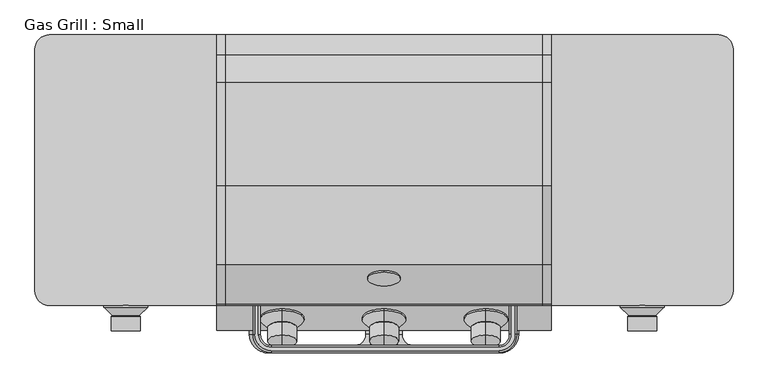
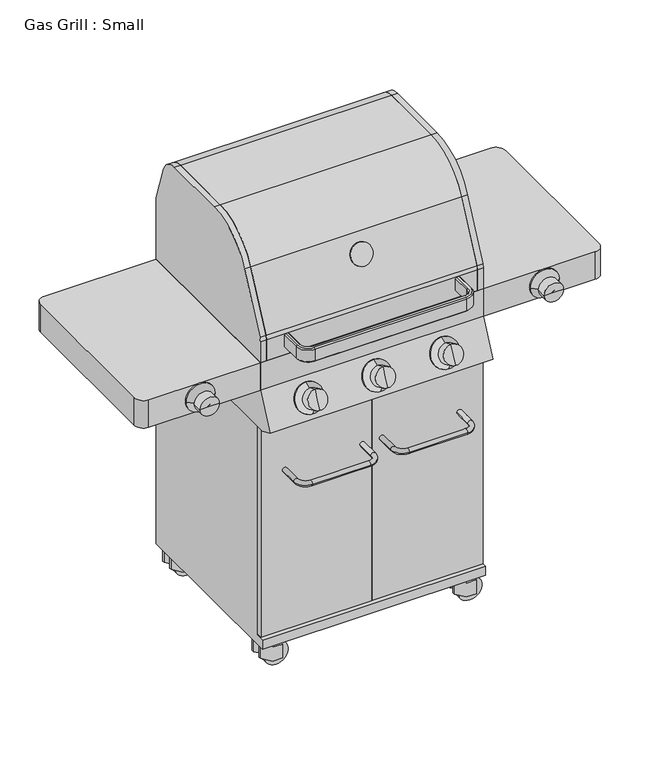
"""IFC4 building model written with IfcOpenShell, lengths in millimetres: proxy geometry, Gas Grill : Small."""

from ifc_helpers import new_model, si_unit, point, frame, frame_2d, origin, place, context, project, spatial, polyline, circle_curve, ellipse_curve, trimmed, segment, composite_curve, outline, extrude, source, transform, mapped, element, save
from ifc_brep_helpers import plane_surface, cylinder_surface, revolved_surface, advanced_brep


def gas_grill_small_96ad8991(model_context):
    return source(origin(), model_context, "Body", "SolidModel", [
        advanced_brep(
        [(0.0, -237.6710003, 774.7559865), (0.0, -269.8745119, 705.6953331), (0.0, -253.7727561, 740.2256598), (0.0, -240.5485275, 776.0977995), (0.0, -272.7520391, 707.0371461), (0.0, -259.5355585, 769.1870854), (0.0, -279.6627532, 726.024177), (0.0, -260.3034156, 771.2967555), (0.0, -281.7724233, 725.2563199), (0.0, -283.3236334, 782.0312593), (0.0, -304.7926411, 735.9908238), (0.0, -294.0581372, 759.0110415)],
        [
            (0, 1, circle_curve(frame((0.0, -253.7727561, 740.2256598), z_axis=(0.0, 0.9063077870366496, -0.42261826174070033), x_axis=(0.0, -0.42261826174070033, -0.9063077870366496)), 38.1)),
            (1, 2),
            (2, 0),
            (1, 0, circle_curve(frame((0.0, -253.7727561, 740.2256598), z_axis=(0.0, 0.9063077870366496, -0.42261826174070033), x_axis=(0.0, -0.42261826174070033, -0.9063077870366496)), 38.1)),
            (3, 4, circle_curve(frame((0.0, -256.6502833, 741.5674728), z_axis=(0.0, 0.9063077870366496, -0.42261826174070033), x_axis=(0.0, -0.42261826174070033, -0.9063077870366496)), 38.1)),
            (4, 1),
            (0, 3),
            (4, 3, circle_curve(frame((0.0, -256.6502833, 741.5674728), z_axis=(0.0, 0.9063077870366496, -0.42261826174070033), x_axis=(0.0, -0.42261826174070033, -0.9063077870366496)), 38.1)),
            (5, 6, circle_curve(frame((0.0, -269.5991558, 747.6056312), z_axis=(0.0, 0.9063077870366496, -0.42261826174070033), x_axis=(0.0, -0.42261826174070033, -0.9063077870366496)), 23.8125)),
            (6, 4),
            (3, 5),
            (6, 5, circle_curve(frame((0.0, -269.5991558, 747.6056312), z_axis=(0.0, 0.9063077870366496, -0.42261826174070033), x_axis=(0.0, -0.42261826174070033, -0.9063077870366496)), 23.8125)),
            (7, 8, circle_curve(frame((0.0, -271.0379194, 748.2765377), z_axis=(0.0, 0.9063077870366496, -0.42261826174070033), x_axis=(0.0, -0.42261826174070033, -0.9063077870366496)), 25.4)),
            (8, 6),
            (5, 7),
            (8, 7, circle_curve(frame((0.0, -271.0379194, 748.2765377), z_axis=(0.0, 0.9063077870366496, -0.42261826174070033), x_axis=(0.0, -0.42261826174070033, -0.9063077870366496)), 25.4)),
            (9, 10, circle_curve(frame((0.0, -294.0581372, 759.0110415), z_axis=(0.0, 0.9063077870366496, -0.42261826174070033), x_axis=(0.0, -0.42261826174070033, -0.9063077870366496)), 25.4)),
            (10, 8),
            (7, 9),
            (10, 9, circle_curve(frame((0.0, -294.0581372, 759.0110415), z_axis=(0.0, 0.9063077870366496, -0.42261826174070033), x_axis=(0.0, -0.42261826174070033, -0.9063077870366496)), 25.4)),
            (11, 10),
            (9, 11),
        ],
        [
            plane_surface(frame((0.0, -253.7727561, 740.2256598), z_axis=(0.0, 0.9063077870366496, -0.42261826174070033), x_axis=(0.0, -0.42261826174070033, -0.9063077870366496))),
            cylinder_surface(frame((0.0, -294.0581372, 759.0110415), z_axis=(0.0, -0.9063077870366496, 0.42261826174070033), x_axis=(0.0, -0.42261826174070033, -0.9063077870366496)), 38.1),
            revolved_surface(polyline([(0.0, -272.7520391, 707.0371461), (0.0, -279.6627532, 726.024177)]), (0.0, -294.0581372, 759.0110415), (0.0, -0.9063077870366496, 0.42261826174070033)),
            revolved_surface(polyline([(0.0, -279.6627532, 726.024177), (0.0, -281.7724233, 725.2563199)]), (0.0, -294.0581372, 759.0110415), (0.0, -0.9063077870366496, 0.42261826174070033)),
            cylinder_surface(frame((0.0, -294.0581372, 759.0110415), z_axis=(0.0, -0.9063077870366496, 0.42261826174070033), x_axis=(0.0, -0.42261826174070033, -0.9063077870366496)), 25.4),
            plane_surface(frame((0.0, -294.0581372, 759.0110415), z_axis=(0.0, -0.9063077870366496, 0.42261826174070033), x_axis=(0.0, -0.42261826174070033, -0.9063077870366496))),
        ],
        [
            (0, [[1, 2, 3]]),
            (0, [[4, -3, -2]]),
            (1, [[5, 6, -1, 7]]),
            (1, [[8, -7, -4, -6]]),
            (2, [[9, 10, -5, 11]]),
            (2, [[12, -11, -8, -10]]),
            (3, [[13, 14, -9, 15]]),
            (3, [[16, -15, -12, -14]]),
            (4, [[17, 18, -13, 19]]),
            (4, [[20, -19, -16, -18]]),
            (5, [[21, -17, 22]]),
            (5, [[-22, -20, -21]]),
        ],
    ),
        advanced_brep(
        [(-412.75, -231.775, 825.5), (-450.85, -231.775, 825.5), (-488.95, -231.775, 825.5), (-412.75, -234.95, 825.5), (-488.95, -234.95, 825.5), (-427.0375, -249.2375, 825.5), (-474.6625, -249.2375, 825.5), (-425.45, -250.825, 825.5), (-476.25, -250.825, 825.5), (-425.45, -276.225, 825.5), (-476.25, -276.225, 825.5), (-450.85, -276.225, 825.5)],
        [
            (0, 1),
            (1, 2),
            (2, 0, circle_curve(frame((-450.85, -231.775, 825.5), z_axis=(0.0, 1.0, 0.0), x_axis=(-1.0, 0.0, 0.0)), 38.1)),
            (0, 2, circle_curve(frame((-450.85, -231.775, 825.5), z_axis=(0.0, 1.0, 0.0), x_axis=(-1.0, 0.0, 0.0)), 38.1)),
            (3, 0),
            (2, 4),
            (4, 3, circle_curve(frame((-450.85, -234.95, 825.5), z_axis=(0.0, 1.0, 0.0), x_axis=(-1.0, 0.0, 0.0)), 38.1)),
            (3, 4, circle_curve(frame((-450.85, -234.95, 825.5), z_axis=(0.0, 1.0, 0.0), x_axis=(-1.0, 0.0, 0.0)), 38.1)),
            (5, 3),
            (4, 6),
            (6, 5, circle_curve(frame((-450.85, -249.2375, 825.5), z_axis=(0.0, 1.0, 0.0), x_axis=(-1.0, 0.0, 0.0)), 23.8125)),
            (5, 6, circle_curve(frame((-450.85, -249.2375, 825.5), z_axis=(0.0, 1.0, 0.0), x_axis=(-1.0, 0.0, 0.0)), 23.8125)),
            (7, 5),
            (6, 8),
            (8, 7, circle_curve(frame((-450.85, -250.825, 825.5), z_axis=(0.0, 1.0, 0.0), x_axis=(-1.0, 0.0, 0.0)), 25.4)),
            (7, 8, circle_curve(frame((-450.85, -250.825, 825.5), z_axis=(0.0, 1.0, 0.0), x_axis=(-1.0, 0.0, 0.0)), 25.4)),
            (9, 7),
            (8, 10),
            (10, 9, circle_curve(frame((-450.85, -276.225, 825.5), z_axis=(0.0, 1.0, 0.0), x_axis=(-1.0, 0.0, 0.0)), 25.4)),
            (9, 10, circle_curve(frame((-450.85, -276.225, 825.5), z_axis=(0.0, 1.0, 0.0), x_axis=(-1.0, 0.0, 0.0)), 25.4)),
            (11, 9),
            (10, 11),
        ],
        [
            plane_surface(frame((-450.85, -231.775, 825.5), z_axis=(0.0, 1.0, 0.0), x_axis=(-1.0, 0.0, 0.0))),
            cylinder_surface(frame((-450.85, -276.225, 825.5), z_axis=(0.0, -1.0, 0.0), x_axis=(-1.0, 0.0, 0.0)), 38.1),
            revolved_surface(polyline([(-488.95, -234.95, 825.5), (-474.6625, -249.2375, 825.5)]), (-450.85, -276.225, 825.5), (0.0, -1.0, 0.0)),
            revolved_surface(polyline([(-474.6625, -249.2375, 825.5), (-476.25, -250.825, 825.5)]), (-450.85, -276.225, 825.5), (0.0, -1.0, 0.0)),
            cylinder_surface(frame((-450.85, -276.225, 825.5), z_axis=(0.0, -1.0, 0.0), x_axis=(-1.0, 0.0, 0.0)), 25.4),
            plane_surface(frame((-450.85, -276.225, 825.5), z_axis=(0.0, -1.0, 0.0), x_axis=(-1.0, 0.0, 0.0))),
        ],
        [
            (0, [[1, 2, 3]]),
            (0, [[-2, -1, 4]]),
            (1, [[5, -3, 6, 7]]),
            (1, [[-6, -4, -5, 8]]),
            (2, [[9, -7, 10, 11]]),
            (2, [[-10, -8, -9, 12]]),
            (3, [[13, -11, 14, 15]]),
            (3, [[-14, -12, -13, 16]]),
            (4, [[17, -15, 18, 19]]),
            (4, [[-18, -16, -17, 20]]),
            (5, [[21, -19, 22]]),
            (5, [[-22, -20, -21]]),
        ],
    ),
        advanced_brep(
        [(-177.8, -237.6710003, 774.7559865), (-177.8, -269.8745119, 705.6953331), (-177.8, -253.7727561, 740.2256598), (-177.8, -240.5485275, 776.0977995), (-177.8, -272.7520391, 707.0371461), (-177.8, -259.5355585, 769.1870854), (-177.8, -279.6627532, 726.024177), (-177.8, -260.3034156, 771.2967555), (-177.8, -281.7724233, 725.2563199), (-177.8, -283.3236334, 782.0312593), (-177.8, -304.7926411, 735.9908238), (-177.8, -294.0581372, 759.0110415)],
        [
            (0, 1, circle_curve(frame((-177.8, -253.7727561, 740.2256598), z_axis=(0.0, 0.9063077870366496, -0.42261826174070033), x_axis=(0.0, -0.42261826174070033, -0.9063077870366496)), 38.1)),
            (1, 2),
            (2, 0),
            (1, 0, circle_curve(frame((-177.8, -253.7727561, 740.2256598), z_axis=(0.0, 0.9063077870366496, -0.42261826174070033), x_axis=(0.0, -0.42261826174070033, -0.9063077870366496)), 38.1)),
            (3, 4, circle_curve(frame((-177.8, -256.6502833, 741.5674728), z_axis=(0.0, 0.9063077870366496, -0.42261826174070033), x_axis=(0.0, -0.42261826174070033, -0.9063077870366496)), 38.1)),
            (4, 1),
            (0, 3),
            (4, 3, circle_curve(frame((-177.8, -256.6502833, 741.5674728), z_axis=(0.0, 0.9063077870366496, -0.42261826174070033), x_axis=(0.0, -0.42261826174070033, -0.9063077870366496)), 38.1)),
            (5, 6, circle_curve(frame((-177.8, -269.5991558, 747.6056312), z_axis=(0.0, 0.9063077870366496, -0.42261826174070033), x_axis=(0.0, -0.42261826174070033, -0.9063077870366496)), 23.8125)),
            (6, 4),
            (3, 5),
            (6, 5, circle_curve(frame((-177.8, -269.5991558, 747.6056312), z_axis=(0.0, 0.9063077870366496, -0.42261826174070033), x_axis=(0.0, -0.42261826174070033, -0.9063077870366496)), 23.8125)),
            (7, 8, circle_curve(frame((-177.8, -271.0379194, 748.2765377), z_axis=(0.0, 0.9063077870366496, -0.42261826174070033), x_axis=(0.0, -0.42261826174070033, -0.9063077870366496)), 25.4)),
            (8, 6),
            (5, 7),
            (8, 7, circle_curve(frame((-177.8, -271.0379194, 748.2765377), z_axis=(0.0, 0.9063077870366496, -0.42261826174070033), x_axis=(0.0, -0.42261826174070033, -0.9063077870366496)), 25.4)),
            (9, 10, circle_curve(frame((-177.8, -294.0581372, 759.0110415), z_axis=(0.0, 0.9063077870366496, -0.42261826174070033), x_axis=(0.0, -0.42261826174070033, -0.9063077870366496)), 25.4)),
            (10, 8),
            (7, 9),
            (10, 9, circle_curve(frame((-177.8, -294.0581372, 759.0110415), z_axis=(0.0, 0.9063077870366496, -0.42261826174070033), x_axis=(0.0, -0.42261826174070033, -0.9063077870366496)), 25.4)),
            (11, 10),
            (9, 11),
        ],
        [
            plane_surface(frame((-177.8, -253.7727561, 740.2256598), z_axis=(0.0, 0.9063077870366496, -0.42261826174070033), x_axis=(0.0, -0.42261826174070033, -0.9063077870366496))),
            cylinder_surface(frame((-177.8, -294.0581372, 759.0110415), z_axis=(0.0, -0.9063077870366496, 0.42261826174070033), x_axis=(0.0, -0.42261826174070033, -0.9063077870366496)), 38.1),
            revolved_surface(polyline([(-177.8, -272.7520391, 707.0371461), (-177.8, -279.6627532, 726.024177)]), (-177.8, -294.0581372, 759.0110415), (0.0, -0.9063077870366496, 0.42261826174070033)),
            revolved_surface(polyline([(-177.8, -279.6627532, 726.024177), (-177.8, -281.7724233, 725.2563199)]), (-177.8, -294.0581372, 759.0110415), (0.0, -0.9063077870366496, 0.42261826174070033)),
            cylinder_surface(frame((-177.8, -294.0581372, 759.0110415), z_axis=(0.0, -0.9063077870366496, 0.42261826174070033), x_axis=(0.0, -0.42261826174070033, -0.9063077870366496)), 25.4),
            plane_surface(frame((-177.8, -294.0581372, 759.0110415), z_axis=(0.0, -0.9063077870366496, 0.42261826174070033), x_axis=(0.0, -0.42261826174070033, -0.9063077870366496))),
        ],
        [
            (0, [[1, 2, 3]]),
            (0, [[4, -3, -2]]),
            (1, [[5, 6, -1, 7]]),
            (1, [[8, -7, -4, -6]]),
            (2, [[9, 10, -5, 11]]),
            (2, [[12, -11, -8, -10]]),
            (3, [[13, 14, -9, 15]]),
            (3, [[16, -15, -12, -14]]),
            (4, [[17, 18, -13, 19]]),
            (4, [[20, -19, -16, -18]]),
            (5, [[21, -17, 22]]),
            (5, [[-22, -20, -21]]),
        ],
    ),
        advanced_brep(
        [(412.75, -231.775, 825.5), (488.95, -231.775, 825.5), (450.85, -231.775, 825.5), (412.75, -234.95, 825.5), (488.95, -234.95, 825.5), (427.0375, -249.2375, 825.5), (474.6625, -249.2375, 825.5), (425.45, -250.825, 825.5), (476.25, -250.825, 825.5), (425.45, -276.225, 825.5), (476.25, -276.225, 825.5), (450.85, -276.225, 825.5)],
        [
            (0, 1, circle_curve(frame((450.85, -231.775, 825.5), z_axis=(0.0, 1.0, 0.0), x_axis=(1.0, 0.0, 0.0)), 38.1)),
            (1, 2),
            (2, 0),
            (1, 0, circle_curve(frame((450.85, -231.775, 825.5), z_axis=(0.0, 1.0, 0.0), x_axis=(1.0, 0.0, 0.0)), 38.1)),
            (3, 4, circle_curve(frame((450.85, -234.95, 825.5), z_axis=(0.0, 1.0, 0.0), x_axis=(1.0, 0.0, 0.0)), 38.1)),
            (4, 1),
            (0, 3),
            (4, 3, circle_curve(frame((450.85, -234.95, 825.5), z_axis=(0.0, 1.0, 0.0), x_axis=(1.0, 0.0, 0.0)), 38.1)),
            (5, 6, circle_curve(frame((450.85, -249.2375, 825.5), z_axis=(0.0, 1.0, 0.0), x_axis=(1.0, 0.0, 0.0)), 23.8125)),
            (6, 4),
            (3, 5),
            (6, 5, circle_curve(frame((450.85, -249.2375, 825.5), z_axis=(0.0, 1.0, 0.0), x_axis=(1.0, 0.0, 0.0)), 23.8125)),
            (7, 8, circle_curve(frame((450.85, -250.825, 825.5), z_axis=(0.0, 1.0, 0.0), x_axis=(1.0, 0.0, 0.0)), 25.4)),
            (8, 6),
            (5, 7),
            (8, 7, circle_curve(frame((450.85, -250.825, 825.5), z_axis=(0.0, 1.0, 0.0), x_axis=(1.0, 0.0, 0.0)), 25.4)),
            (9, 10, circle_curve(frame((450.85, -276.225, 825.5), z_axis=(0.0, 1.0, 0.0), x_axis=(1.0, 0.0, 0.0)), 25.4)),
            (10, 8),
            (7, 9),
            (10, 9, circle_curve(frame((450.85, -276.225, 825.5), z_axis=(0.0, 1.0, 0.0), x_axis=(1.0, 0.0, 0.0)), 25.4)),
            (11, 10),
            (9, 11),
        ],
        [
            plane_surface(frame((450.85, -231.775, 825.5), z_axis=(0.0, 1.0, 0.0), x_axis=(1.0, 0.0, 0.0))),
            cylinder_surface(frame((450.85, -276.225, 825.5), z_axis=(0.0, -1.0, 0.0), x_axis=(1.0, 0.0, 0.0)), 38.1),
            revolved_surface(polyline([(488.95, -234.95, 825.5), (474.6625, -249.2375, 825.5)]), (450.85, -276.225, 825.5), (0.0, -1.0, 0.0)),
            revolved_surface(polyline([(474.6625, -249.2375, 825.5), (476.25, -250.825, 825.5)]), (450.85, -276.225, 825.5), (0.0, -1.0, 0.0)),
            cylinder_surface(frame((450.85, -276.225, 825.5), z_axis=(0.0, -1.0, 0.0), x_axis=(1.0, 0.0, 0.0)), 25.4),
            plane_surface(frame((450.85, -276.225, 825.5), z_axis=(0.0, -1.0, 0.0), x_axis=(1.0, 0.0, 0.0))),
        ],
        [
            (0, [[1, 2, 3]]),
            (0, [[4, -3, -2]]),
            (1, [[5, 6, -1, 7]]),
            (1, [[8, -7, -4, -6]]),
            (2, [[9, 10, -5, 11]]),
            (2, [[12, -11, -8, -10]]),
            (3, [[13, 14, -9, 15]]),
            (3, [[16, -15, -12, -14]]),
            (4, [[17, 18, -13, 19]]),
            (4, [[20, -19, -16, -18]]),
            (5, [[21, -17, 22]]),
            (5, [[-22, -20, -21]]),
        ],
    ),
        advanced_brep(
        [(177.8, -237.6710003, 774.7559865), (177.8, -269.8745119, 705.6953331), (177.8, -253.7727561, 740.2256598), (177.8, -240.5485275, 776.0977995), (177.8, -272.7520391, 707.0371461), (177.8, -259.5355585, 769.1870854), (177.8, -279.6627532, 726.024177), (177.8, -260.3034156, 771.2967555), (177.8, -281.7724233, 725.2563199), (177.8, -283.3236334, 782.0312593), (177.8, -304.7926411, 735.9908238), (177.8, -294.0581372, 759.0110415)],
        [
            (0, 1, circle_curve(frame((177.8, -253.7727561, 740.2256598), z_axis=(0.0, 0.9063077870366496, -0.42261826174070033), x_axis=(0.0, -0.42261826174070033, -0.9063077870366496)), 38.1)),
            (1, 2),
            (2, 0),
            (1, 0, circle_curve(frame((177.8, -253.7727561, 740.2256598), z_axis=(0.0, 0.9063077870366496, -0.42261826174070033), x_axis=(0.0, -0.42261826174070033, -0.9063077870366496)), 38.1)),
            (3, 4, circle_curve(frame((177.8, -256.6502833, 741.5674728), z_axis=(0.0, 0.9063077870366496, -0.42261826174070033), x_axis=(0.0, -0.42261826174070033, -0.9063077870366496)), 38.1)),
            (4, 1),
            (0, 3),
            (4, 3, circle_curve(frame((177.8, -256.6502833, 741.5674728), z_axis=(0.0, 0.9063077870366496, -0.42261826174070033), x_axis=(0.0, -0.42261826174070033, -0.9063077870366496)), 38.1)),
            (5, 6, circle_curve(frame((177.8, -269.5991558, 747.6056312), z_axis=(0.0, 0.9063077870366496, -0.42261826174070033), x_axis=(0.0, -0.42261826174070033, -0.9063077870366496)), 23.8125)),
            (6, 4),
            (3, 5),
            (6, 5, circle_curve(frame((177.8, -269.5991558, 747.6056312), z_axis=(0.0, 0.9063077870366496, -0.42261826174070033), x_axis=(0.0, -0.42261826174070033, -0.9063077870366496)), 23.8125)),
            (7, 8, circle_curve(frame((177.8, -271.0379194, 748.2765377), z_axis=(0.0, 0.9063077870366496, -0.42261826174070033), x_axis=(0.0, -0.42261826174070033, -0.9063077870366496)), 25.4)),
            (8, 6),
            (5, 7),
            (8, 7, circle_curve(frame((177.8, -271.0379194, 748.2765377), z_axis=(0.0, 0.9063077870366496, -0.42261826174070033), x_axis=(0.0, -0.42261826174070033, -0.9063077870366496)), 25.4)),
            (9, 10, circle_curve(frame((177.8, -294.0581372, 759.0110415), z_axis=(0.0, 0.9063077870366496, -0.42261826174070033), x_axis=(0.0, -0.42261826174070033, -0.9063077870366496)), 25.4)),
            (10, 8),
            (7, 9),
            (10, 9, circle_curve(frame((177.8, -294.0581372, 759.0110415), z_axis=(0.0, 0.9063077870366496, -0.42261826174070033), x_axis=(0.0, -0.42261826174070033, -0.9063077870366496)), 25.4)),
            (11, 10),
            (9, 11),
        ],
        [
            plane_surface(frame((177.8, -253.7727561, 740.2256598), z_axis=(0.0, 0.9063077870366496, -0.42261826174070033), x_axis=(0.0, -0.42261826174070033, -0.9063077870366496))),
            cylinder_surface(frame((177.8, -294.0581372, 759.0110415), z_axis=(0.0, -0.9063077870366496, 0.42261826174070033), x_axis=(0.0, -0.42261826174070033, -0.9063077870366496)), 38.1),
            revolved_surface(polyline([(177.8, -272.7520391, 707.0371461), (177.8, -279.6627532, 726.024177)]), (177.8, -294.0581372, 759.0110415), (0.0, -0.9063077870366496, 0.42261826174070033)),
            revolved_surface(polyline([(177.8, -279.6627532, 726.024177), (177.8, -281.7724233, 725.2563199)]), (177.8, -294.0581372, 759.0110415), (0.0, -0.9063077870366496, 0.42261826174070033)),
            cylinder_surface(frame((177.8, -294.0581372, 759.0110415), z_axis=(0.0, -0.9063077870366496, 0.42261826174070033), x_axis=(0.0, -0.42261826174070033, -0.9063077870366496)), 25.4),
            plane_surface(frame((177.8, -294.0581372, 759.0110415), z_axis=(0.0, -0.9063077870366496, 0.42261826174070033), x_axis=(0.0, -0.42261826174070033, -0.9063077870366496))),
        ],
        [
            (0, [[1, 2, 3]]),
            (0, [[4, -3, -2]]),
            (1, [[5, 6, -1, 7]]),
            (1, [[8, -7, -4, -6]]),
            (2, [[9, 10, -5, 11]]),
            (2, [[12, -11, -8, -10]]),
            (3, [[13, 14, -9, 15]]),
            (3, [[16, -15, -12, -14]]),
            (4, [[17, 18, -13, 19]]),
            (4, [[20, -19, -16, -18]]),
            (5, [[21, -17, 22]]),
            (5, [[-22, -20, -21]]),
        ],
    ),
        extrude(outline(polyline([(37.380871, 221.7704136), (19.05, 253.5204136), (19.05, 278.9204136), (57.15, 278.9204136), (57.15, 252.7781091), (76.2, 247.673677), (76.2, 221.7704136), (37.380871, 221.7704136)])), frame((0.0, -222.25, 0.0), z_axis=(0.0, 1.0, 0.0), x_axis=(0.0, 0.0, 1.0)), (0.0, 0.0, 1.0), 6.35),
        extrude(outline(composite_curve([segment(trimmed(circle_curve(frame_2d((31.75, 267.9717065)), 31.75), [point((0.0, 267.9717065))], [point((63.5, 267.9717065))], False, "CARTESIAN"), True, "CONTINUOUS"), segment(trimmed(circle_curve(frame_2d((31.75, 267.9717065)), 31.75), [point((63.5, 267.9717065))], [point((0.0, 267.9717065))], False, "CARTESIAN"), True, "CONTINUOUS")], self_intersect=False)), frame((0.0, -212.852, 0.0), z_axis=(0.0, 1.0, 0.0), x_axis=(0.0, 0.0, 1.0)), (0.0, 0.0, 1.0), 19.304),
        extrude(outline(polyline([(37.380871, 221.7704136), (19.05, 253.5204136), (19.05, 278.9204136), (57.15, 278.9204136), (57.15, 252.7781091), (76.2, 247.673677), (76.2, 221.7704136), (37.380871, 221.7704136)])), frame((0.0, -190.5, 0.0), z_axis=(0.0, 1.0, 0.0), x_axis=(0.0, 0.0, 1.0)), (0.0, 0.0, 1.0), 6.35),
        advanced_brep(
        [(-219.202, -231.775, 920.75), (-215.9, -231.775, 917.448), (-215.9, -231.775, 885.952), (-219.202, -231.775, 882.65), (-225.298, -231.775, 882.65), (-228.6, -231.775, 885.952), (-228.6, -231.775, 917.448), (-225.298, -231.775, 920.75), (222.377, -231.775, 920.75), (228.473, -231.775, 920.75), (231.775, -231.775, 917.448), (231.775, -231.775, 885.952), (228.473, -231.775, 882.65), (222.377, -231.775, 882.65), (219.075, -231.775, 885.952), (219.075, -231.775, 917.448), (-219.202, -282.575, 920.75), (-215.9, -282.575, 917.448), (-215.9, -282.575, 885.952), (-219.202, -282.575, 882.65), (-196.85, -304.927, 882.65), (200.025, -304.927, 882.65), (222.377, -282.575, 882.65), (228.473, -282.575, 882.65), (200.025, -311.023, 882.65), (-196.85, -311.023, 882.65), (-225.298, -282.575, 882.65), (-228.6, -282.575, 885.952), (-228.6, -282.575, 917.448), (-225.298, -282.575, 920.75), (-196.85, -311.023, 920.75), (200.025, -311.023, 920.75), (228.473, -282.575, 920.75), (222.377, -282.575, 920.75), (200.025, -304.927, 920.75), (-196.85, -304.927, 920.75), (-196.85, -301.625, 917.448), (-196.85, -301.625, 885.952), (-196.85, -314.325, 885.952), (-196.85, -314.325, 917.448), (200.025, -301.625, 917.448), (200.025, -301.625, 885.952), (200.025, -314.325, 885.952), (200.025, -314.325, 917.448), (219.075, -282.575, 917.448), (219.075, -282.575, 885.952), (231.775, -282.575, 885.952), (231.775, -282.575, 917.448)],
        [
            (0, 1),
            (1, 2),
            (2, 3),
            (3, 4),
            (4, 5),
            (5, 6),
            (6, 7),
            (7, 0),
            (8, 9),
            (9, 10),
            (10, 11),
            (11, 12),
            (12, 13),
            (13, 14),
            (14, 15),
            (15, 8),
            (0, 16),
            (16, 17),
            (17, 1),
            (17, 18),
            (18, 2),
            (18, 19),
            (19, 3),
            (19, 20, circle_curve(frame((-196.85, -282.575, 882.65), z_axis=(0.0, 0.0, 1.0), x_axis=(-1.0, 0.0, 0.0)), 22.352)),
            (20, 21),
            (21, 22, circle_curve(frame((200.025, -282.575, 882.65), z_axis=(0.0, 0.0, 1.0), x_axis=(0.0, -1.0, 0.0)), 22.352)),
            (22, 13),
            (12, 23),
            (23, 24, circle_curve(frame((200.025, -282.575, 882.65), z_axis=(0.0, 0.0, -1.0), x_axis=(0.0, -1.0, 0.0)), 28.448)),
            (24, 25),
            (25, 26, circle_curve(frame((-196.85, -282.575, 882.65), z_axis=(0.0, 0.0, -1.0), x_axis=(-1.0, 0.0, 0.0)), 28.448)),
            (26, 4),
            (26, 27),
            (27, 5),
            (27, 28),
            (28, 6),
            (28, 29),
            (29, 7),
            (29, 30, circle_curve(frame((-196.85, -282.575, 920.75), z_axis=(0.0, 0.0, 1.0), x_axis=(-1.0, 0.0, 0.0)), 28.448)),
            (30, 31),
            (31, 32, circle_curve(frame((200.025, -282.575, 920.75), z_axis=(0.0, 0.0, 1.0), x_axis=(0.0, -1.0, 0.0)), 28.448)),
            (32, 9),
            (8, 33),
            (33, 34, circle_curve(frame((200.025, -282.575, 920.75), z_axis=(0.0, 0.0, -1.0), x_axis=(0.0, -1.0, 0.0)), 22.352)),
            (34, 35),
            (35, 16, circle_curve(frame((-196.85, -282.575, 920.75), z_axis=(0.0, 0.0, -1.0), x_axis=(-1.0, 0.0, 0.0)), 22.352)),
            (36, 17, circle_curve(frame((-196.85, -282.575, 917.448), z_axis=(0.0, 0.0, -1.0), x_axis=(-1.0, 0.0, 0.0)), 19.05)),
            (35, 36),
            (37, 18, circle_curve(frame((-196.85, -282.575, 885.952), z_axis=(0.0, 0.0, -1.0), x_axis=(-1.0, 0.0, 0.0)), 19.05)),
            (36, 37),
            (37, 20),
            (38, 27, circle_curve(frame((-196.85, -282.575, 885.952), z_axis=(0.0, 0.0, -1.0), x_axis=(-1.0, 0.0, 0.0)), 31.75)),
            (25, 38),
            (39, 28, circle_curve(frame((-196.85, -282.575, 917.448), z_axis=(0.0, 0.0, -1.0), x_axis=(-1.0, 0.0, 0.0)), 31.75)),
            (38, 39),
            (39, 30),
            (34, 40),
            (40, 36),
            (40, 41),
            (41, 37),
            (41, 21),
            (24, 42),
            (42, 38),
            (42, 43),
            (43, 39),
            (43, 31),
            (44, 40, circle_curve(frame((200.025, -282.575, 917.448), z_axis=(0.0, 0.0, -1.0), x_axis=(0.0, -1.0, 0.0)), 19.05)),
            (33, 44),
            (45, 41, circle_curve(frame((200.025, -282.575, 885.952), z_axis=(0.0, 0.0, -1.0), x_axis=(0.0, -1.0, 0.0)), 19.05)),
            (44, 45),
            (45, 22),
            (46, 42, circle_curve(frame((200.025, -282.575, 885.952), z_axis=(0.0, 0.0, -1.0), x_axis=(0.0, -1.0, 0.0)), 31.75)),
            (23, 46),
            (47, 43, circle_curve(frame((200.025, -282.575, 917.448), z_axis=(0.0, 0.0, -1.0), x_axis=(0.0, -1.0, 0.0)), 31.75)),
            (46, 47),
            (47, 32),
            (15, 44),
            (14, 45),
            (11, 46),
            (10, 47),
        ],
        [
            plane_surface(frame((-222.25, -231.775, 901.7), z_axis=(0.0, 1.0, 0.0), x_axis=(0.0, 0.0, 1.0))),
            plane_surface(frame((225.425, -231.775, 901.7), z_axis=(0.0, 1.0, 0.0), x_axis=(0.0, 0.0, 1.0))),
            plane_surface(frame((-219.202, -231.775, 920.75), z_axis=(0.7071067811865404, 0.0, 0.7071067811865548), x_axis=(0.0, -1.0, 0.0))),
            plane_surface(frame((-215.9, -231.775, 917.448), z_axis=(1.0, 0.0, 0.0), x_axis=(0.0, -1.0, 0.0))),
            plane_surface(frame((-215.9, -231.775, 885.952), z_axis=(0.7071067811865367, 0.0, -0.7071067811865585), x_axis=(0.0, -1.0, 0.0))),
            plane_surface(frame((-219.202, -231.775, 882.65), z_axis=(0.0, 0.0, -1.0), x_axis=(0.0, -1.0, 0.0))),
            plane_surface(frame((-225.298, -231.775, 882.65), z_axis=(-0.7071067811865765, 0.0, -0.7071067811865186), x_axis=(0.0, -1.0, 0.0))),
            plane_surface(frame((-228.6, -231.775, 885.952), z_axis=(-1.0, 0.0, 0.0), x_axis=(0.0, -1.0, 0.0))),
            plane_surface(frame((-228.6, -231.775, 917.448), z_axis=(-0.7071067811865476, 0.0, 0.7071067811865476), x_axis=(0.0, -1.0, 0.0))),
            plane_surface(frame((-225.298, -231.775, 920.75), z_axis=(0.0, 0.0, 1.0), x_axis=(0.0, -1.0, 0.0))),
            revolved_surface(polyline([(-219.202, -282.575, 920.75), (-215.9, -282.575, 917.448)]), (-196.85, -282.575, 901.7), (0.0, 0.0, 1.0)),
            revolved_surface(polyline([(-215.9, -282.575, 917.448), (-215.9, -282.575, 885.952)]), (-196.85, -282.575, 901.7), (0.0, 0.0, 1.0)),
            revolved_surface(polyline([(-215.9, -282.575, 885.952), (-219.202, -282.575, 882.65)]), (-196.85, -282.575, 901.7), (0.0, 0.0, 1.0)),
            revolved_surface(polyline([(-225.298, -282.575, 882.65), (-228.6, -282.575, 885.952)]), (-196.85, -282.575, 901.7), (0.0, 0.0, 1.0)),
            cylinder_surface(frame((-196.85, -282.575, 901.7), z_axis=(0.0, 0.0, 1.0), x_axis=(-1.0, 0.0, 0.0)), 31.75),
            revolved_surface(polyline([(-228.6, -282.575, 917.448), (-225.298, -282.575, 920.75)]), (-196.85, -282.575, 901.7), (0.0, 0.0, 1.0)),
            plane_surface(frame((-196.85, -304.927, 920.75), z_axis=(0.0, 0.7071067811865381, 0.707106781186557), x_axis=(1.0, 0.0, 0.0))),
            plane_surface(frame((-196.85, -301.625, 917.448), z_axis=(0.0, 1.0, 0.0), x_axis=(1.0, 0.0, 0.0))),
            plane_surface(frame((-196.85, -301.625, 885.952), z_axis=(0.0, 0.7071067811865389, -0.7071067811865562), x_axis=(1.0, 0.0, 0.0))),
            plane_surface(frame((-196.85, -311.023, 882.65), z_axis=(0.0, -0.7071067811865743, -0.7071067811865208), x_axis=(1.0, 0.0, 0.0))),
            plane_surface(frame((-196.85, -314.325, 885.952), z_axis=(0.0, -1.0, 0.0), x_axis=(1.0, 0.0, 0.0))),
            plane_surface(frame((-196.85, -314.325, 917.448), z_axis=(0.0, -0.7071067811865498, 0.7071067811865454), x_axis=(1.0, 0.0, 0.0))),
            revolved_surface(polyline([(200.025, -304.927, 920.75), (200.025, -301.625, 917.448)]), (200.025, -282.575, 901.7), (0.0, 0.0, 1.0)),
            revolved_surface(polyline([(200.025, -301.625, 917.448), (200.025, -301.625, 885.952)]), (200.025, -282.575, 901.7), (0.0, 0.0, 1.0)),
            revolved_surface(polyline([(200.025, -301.625, 885.952), (200.025, -304.927, 882.65)]), (200.025, -282.575, 901.7), (0.0, 0.0, 1.0)),
            revolved_surface(polyline([(200.025, -311.023, 882.65), (200.025, -314.325, 885.952)]), (200.025, -282.575, 901.7), (0.0, 0.0, 1.0)),
            cylinder_surface(frame((200.025, -282.575, 901.7), z_axis=(0.0, 0.0, 1.0), x_axis=(0.0, -1.0, 0.0)), 31.75),
            revolved_surface(polyline([(200.025, -314.325, 917.448), (200.025, -311.023, 920.75)]), (200.025, -282.575, 901.7), (0.0, 0.0, 1.0)),
            plane_surface(frame((222.377, -282.575, 920.75), z_axis=(-0.7071067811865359, 0.0, 0.7071067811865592), x_axis=(0.0, 1.0, 0.0))),
            plane_surface(frame((219.075, -282.575, 917.448), z_axis=(-1.0, 0.0, 0.0), x_axis=(0.0, 1.0, 0.0))),
            plane_surface(frame((219.075, -282.575, 885.952), z_axis=(-0.7071067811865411, 0.0, -0.707106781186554), x_axis=(0.0, 1.0, 0.0))),
            plane_surface(frame((228.473, -282.575, 882.65), z_axis=(0.7071067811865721, 0.0, -0.707106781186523), x_axis=(0.0, 1.0, 0.0))),
            plane_surface(frame((231.775, -282.575, 885.952), z_axis=(1.0, 0.0, 0.0), x_axis=(0.0, 1.0, 0.0))),
            plane_surface(frame((231.775, -282.575, 917.448), z_axis=(0.707106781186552, 0.0, 0.7071067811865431), x_axis=(0.0, 1.0, 0.0))),
        ],
        [
            (0, [[1, 2, 3, 4, 5, 6, 7, 8]]),
            (1, [[9, 10, 11, 12, 13, 14, 15, 16]]),
            (2, [[-1, 17, 18, 19]]),
            (3, [[-2, -19, 20, 21]]),
            (4, [[-3, -21, 22, 23]]),
            (5, [[-4, -23, 24, 25, 26, 27, -13, 28, 29, 30, 31, 32]]),
            (6, [[-5, -32, 33, 34]]),
            (7, [[-6, -34, 35, 36]]),
            (8, [[-7, -36, 37, 38]]),
            (9, [[-8, -38, 39, 40, 41, 42, -9, 43, 44, 45, 46, -17]]),
            (10, [[47, -18, -46, 48]]),
            (11, [[49, -20, -47, 50]]),
            (12, [[-24, -22, -49, 51]]),
            (13, [[52, -33, -31, 53]]),
            (14, [[54, -35, -52, 55]]),
            (15, [[-39, -37, -54, 56]]),
            (16, [[-48, -45, 57, 58]]),
            (17, [[-50, -58, 59, 60]]),
            (18, [[-51, -60, 61, -25]]),
            (19, [[-53, -30, 62, 63]]),
            (20, [[-55, -63, 64, 65]]),
            (21, [[-56, -65, 66, -40]]),
            (22, [[67, -57, -44, 68]]),
            (23, [[69, -59, -67, 70]]),
            (24, [[-26, -61, -69, 71]]),
            (25, [[72, -62, -29, 73]]),
            (26, [[74, -64, -72, 75]]),
            (27, [[-41, -66, -74, 76]]),
            (28, [[-68, -43, -16, 77]]),
            (29, [[-70, -77, -15, 78]]),
            (30, [[-71, -78, -14, -27]]),
            (31, [[-73, -28, -12, 79]]),
            (32, [[-75, -79, -11, 80]]),
            (33, [[-76, -80, -10, -42]]),
        ],
    ),
        extrude(outline(polyline([(37.380871, 221.7704136), (19.05, 253.5204136), (19.05, 278.9204136), (57.15, 278.9204136), (57.15, 252.7781091), (76.2, 247.673677), (76.2, 221.7704136), (37.380871, 221.7704136)])), frame((0.0, 215.9, 0.0), z_axis=(0.0, 1.0, 0.0), x_axis=(0.0, 0.0, 1.0)), (0.0, 0.0, 1.0), 6.35),
        extrude(outline(composite_curve([segment(trimmed(circle_curve(frame_2d((31.75, 267.9717065)), 31.75), [point((0.0, 267.9717065))], [point((63.5, 267.9717065))], False, "CARTESIAN"), True, "CONTINUOUS"), segment(trimmed(circle_curve(frame_2d((31.75, 267.9717065)), 31.75), [point((63.5, 267.9717065))], [point((0.0, 267.9717065))], False, "CARTESIAN"), True, "CONTINUOUS")], self_intersect=False)), frame((0.0, 193.548, 0.0), z_axis=(0.0, 1.0, 0.0), x_axis=(0.0, 0.0, 1.0)), (0.0, 0.0, 1.0), 19.304),
        extrude(outline(polyline([(37.380871, 221.7704136), (19.05, 253.5204136), (19.05, 278.9204136), (57.15, 278.9204136), (57.15, 252.7781091), (76.2, 247.673677), (76.2, 221.7704136), (37.380871, 221.7704136)])), frame((0.0, 184.15, 0.0), z_axis=(0.0, 1.0, 0.0), x_axis=(0.0, 0.0, 1.0)), (0.0, 0.0, 1.0), 6.35),
        extrude(outline(polyline([(37.380871, -286.2295864), (19.05, -254.4795864), (19.05, -229.0795864), (57.15, -229.0795864), (57.15, -255.2218909), (76.2, -260.326323), (76.2, -286.2295864), (37.380871, -286.2295864)])), frame((0.0, -222.25, 0.0), z_axis=(0.0, 1.0, 0.0), x_axis=(0.0, 0.0, 1.0)), (0.0, 0.0, 1.0), 6.35),
        extrude(outline(composite_curve([segment(trimmed(circle_curve(frame_2d((31.75, -240.0282935)), 31.75), [point((0.0, -240.0282935))], [point((63.5, -240.0282935))], False, "CARTESIAN"), True, "CONTINUOUS"), segment(trimmed(circle_curve(frame_2d((31.75, -240.0282935)), 31.75), [point((63.5, -240.0282935))], [point((0.0, -240.0282935))], False, "CARTESIAN"), True, "CONTINUOUS")], self_intersect=False)), frame((0.0, -212.852, 0.0), z_axis=(0.0, 1.0, 0.0), x_axis=(0.0, 0.0, 1.0)), (0.0, 0.0, 1.0), 19.304),
        extrude(outline(polyline([(37.380871, -286.2295864), (19.05, -254.4795864), (19.05, -229.0795864), (57.15, -229.0795864), (57.15, -255.2218909), (76.2, -260.326323), (76.2, -286.2295864), (37.380871, -286.2295864)])), frame((0.0, -190.5, 0.0), z_axis=(0.0, 1.0, 0.0), x_axis=(0.0, 0.0, 1.0)), (0.0, 0.0, 1.0), 6.35),
        extrude(outline(polyline([(37.380871, -286.2295864), (19.05, -254.4795864), (19.05, -229.0795864), (57.15, -229.0795864), (57.15, -255.2218909), (76.2, -260.326323), (76.2, -286.2295864), (37.380871, -286.2295864)])), frame((0.0, 215.9, 0.0), z_axis=(0.0, 1.0, 0.0), x_axis=(0.0, 0.0, 1.0)), (0.0, 0.0, 1.0), 6.35),
        extrude(outline(composite_curve([segment(trimmed(circle_curve(frame_2d((31.75, -240.0282935)), 31.75), [point((0.0, -240.0282935))], [point((63.5, -240.0282935))], False, "CARTESIAN"), True, "CONTINUOUS"), segment(trimmed(circle_curve(frame_2d((31.75, -240.0282935)), 31.75), [point((63.5, -240.0282935))], [point((0.0, -240.0282935))], False, "CARTESIAN"), True, "CONTINUOUS")], self_intersect=False)), frame((0.0, 193.548, 0.0), z_axis=(0.0, 1.0, 0.0), x_axis=(0.0, 0.0, 1.0)), (0.0, 0.0, 1.0), 19.304),
        extrude(outline(polyline([(37.380871, -286.2295864), (19.05, -254.4795864), (19.05, -229.0795864), (57.15, -229.0795864), (57.15, -255.2218909), (76.2, -260.326323), (76.2, -286.2295864), (37.380871, -286.2295864)])), frame((0.0, 184.15, 0.0), z_axis=(0.0, 1.0, 0.0), x_axis=(0.0, 0.0, 1.0)), (0.0, 0.0, 1.0), 6.35),
        extrude(outline(polyline([(-231.775, 787.4), (-231.775, 863.6), (241.3, 863.6), (241.3, 679.45), (-241.3, 679.45), (-274.8234728, 695.0822521), (-231.775, 787.4)])), frame((-292.1, 0.0, 0.0), z_axis=(1.0, 0.0, 0.0), x_axis=(0.0, 1.0, 0.0)), (0.0, 0.0, 1.0), 584.2),
        extrude(outline(polyline([(241.3, 76.2), (-241.3, 76.2), (-241.3, 101.6), (-215.9, 101.6), (-215.9, 679.45), (241.3, 679.45), (241.3, 76.2)])), frame((-292.1, 0.0, 0.0), z_axis=(1.0, 0.0, 0.0), x_axis=(0.0, 1.0, 0.0)), (0.0, 0.0, 1.0), 584.2),
        extrude(outline(polyline([(-1.524, -231.775), (-290.576, -231.775), (-290.576, -215.9), (-1.524, -215.9), (-1.524, -231.775)])), frame((0.0, 0.0, 103.124), z_axis=(0.0, 0.0, 1.0), x_axis=(1.0, 0.0, 0.0)), (0.0, 0.0, 1.0), 574.802),
        extrude(outline(polyline([(290.576, -231.775), (1.524, -231.775), (1.524, -215.9), (290.576, -215.9), (290.576, -231.775)])), frame((0.0, 0.0, 103.124), z_axis=(0.0, 0.0, 1.0), x_axis=(1.0, 0.0, 0.0)), (0.0, 0.0, 1.0), 574.802),
        extrude(outline(composite_curve([segment(polyline([(-225.425, 863.6), (-231.775, 863.6), (-231.775, 921.4689556)]), True, "CONTINUOUS"), segment(trimmed(circle_curve(frame_2d((-206.375, 921.4689556)), 25.4), [point((-231.775, 921.4689556))], [point((-229.3952178, 932.2034594))], False, "CARTESIAN"), True, "CONTINUOUS"), segment(polyline([(-229.3952178, 932.2034594), (-160.2867611, 1080.4070231)]), True, "CONTINUOUS"), segment(trimmed(circle_curve(frame_2d((-22.1654543, 1016.0)), 152.4), [point((-160.2867611, 1080.4070231))], [point((-22.1654543, 1168.4))], False, "CARTESIAN"), True, "CONTINUOUS"), segment(polyline([(-22.1654543, 1168.4), (158.4543579, 1168.4)]), True, "CONTINUOUS"), segment(trimmed(circle_curve(frame_2d((158.4543579, 1117.6)), 50.8), [point((158.4543579, 1168.4))], [point((206.4867016, 1134.1388622))], False, "CARTESIAN"), True, "CONTINUOUS"), segment(polyline([(206.4867016, 1134.1388622), (241.3, 1033.0337022), (241.3, 863.6), (234.95, 863.6), (234.95, 1031.9710766), (200.4826586, 1132.0715045)]), True, "CONTINUOUS"), segment(trimmed(circle_curve(frame_2d((158.4543579, 1117.6)), 44.45), [point((200.4826586, 1132.0715045))], [point((158.4543579, 1162.05))], True, "CARTESIAN"), True, "CONTINUOUS"), segment(polyline([(158.4543579, 1162.05), (-22.1654543, 1162.05)]), True, "CONTINUOUS"), segment(trimmed(circle_curve(frame_2d((-22.1654543, 1016.0)), 146.05), [point((-22.1654543, 1162.05))], [point((-154.5317066, 1077.7233971))], True, "CARTESIAN"), True, "CONTINUOUS"), segment(polyline([(-154.5317066, 1077.7233971), (-223.6401633, 929.5198335)]), True, "CONTINUOUS"), segment(trimmed(circle_curve(frame_2d((-206.375, 921.4689556)), 19.05), [point((-223.6401633, 929.5198335))], [point((-225.425, 921.4689556))], True, "CARTESIAN"), True, "CONTINUOUS"), segment(polyline([(-225.425, 921.4689556), (-225.425, 863.6)]), True, "CONTINUOUS")], self_intersect=False)), frame((-276.225, 0.0, 0.0), z_axis=(1.0, 0.0, 0.0), x_axis=(0.0, 1.0, 0.0)), (0.0, 0.0, 1.0), 552.45),
        advanced_brep(
        [(-234.95, -231.775, 546.1), (-222.25, -231.775, 546.1), (-19.05, -231.775, 546.1), (-31.75, -231.775, 546.1), (-234.95, -282.575, 546.1), (-222.25, -282.575, 546.1), (-203.2, -301.625, 546.1), (-203.2, -314.325, 546.1), (-50.8, -314.325, 546.1), (-50.8, -301.625, 546.1), (-31.75, -282.575, 546.1), (-19.05, -282.575, 546.1)],
        [
            (0, 1, circle_curve(frame((-228.6, -231.775, 546.1), z_axis=(0.0, 1.0, 0.0), x_axis=(1.0, 0.0, 0.0)), 6.35)),
            (1, 0, circle_curve(frame((-228.6, -231.775, 546.1), z_axis=(0.0, 1.0, 0.0), x_axis=(1.0, 0.0, 0.0)), 6.35)),
            (2, 3, circle_curve(frame((-25.4, -231.775, 546.1), z_axis=(0.0, 1.0, 0.0), x_axis=(-1.0, 0.0, 0.0)), 6.35)),
            (3, 2, circle_curve(frame((-25.4, -231.775, 546.1), z_axis=(0.0, 1.0, 0.0), x_axis=(-1.0, 0.0, 0.0)), 6.35)),
            (0, 4),
            (4, 5, circle_curve(frame((-228.6, -282.575, 546.1), z_axis=(0.0, 1.0, 0.0), x_axis=(1.0, 0.0, 0.0)), 6.35)),
            (5, 1),
            (5, 4, circle_curve(frame((-228.6, -282.575, 546.1), z_axis=(0.0, 1.0, 0.0), x_axis=(1.0, 0.0, 0.0)), 6.35)),
            (6, 5, circle_curve(frame((-203.2, -282.575, 546.1), z_axis=(0.0, 0.0, -1.0), x_axis=(-1.0, 0.0, 0.0)), 19.05)),
            (4, 7, circle_curve(frame((-203.2, -282.575, 546.1), z_axis=(0.0, 0.0, 1.0), x_axis=(-1.0, 0.0, 0.0)), 31.75)),
            (7, 6, circle_curve(frame((-203.2, -307.975, 546.1), z_axis=(-1.0, 0.0, 0.0), x_axis=(0.0, 1.0, 0.0)), 6.35)),
            (6, 7, circle_curve(frame((-203.2, -307.975, 546.1), z_axis=(-1.0, 0.0, 0.0), x_axis=(0.0, 1.0, 0.0)), 6.35)),
            (7, 8),
            (8, 9, circle_curve(frame((-50.8, -307.975, 546.1), z_axis=(-1.0, 0.0, 0.0), x_axis=(0.0, 1.0, 0.0)), 6.35)),
            (9, 6),
            (9, 8, circle_curve(frame((-50.8, -307.975, 546.1), z_axis=(-1.0, 0.0, 0.0), x_axis=(0.0, 1.0, 0.0)), 6.35)),
            (10, 9, circle_curve(frame((-50.8, -282.575, 546.1), z_axis=(0.0, 0.0, -1.0), x_axis=(0.0, -1.0, 0.0)), 19.05)),
            (8, 11, circle_curve(frame((-50.8, -282.575, 546.1), z_axis=(0.0, 0.0, 1.0), x_axis=(0.0, -1.0, 0.0)), 31.75)),
            (11, 10, circle_curve(frame((-25.4, -282.575, 546.1), z_axis=(0.0, -1.0, 0.0), x_axis=(-1.0, 0.0, 0.0)), 6.35)),
            (10, 11, circle_curve(frame((-25.4, -282.575, 546.1), z_axis=(0.0, -1.0, 0.0), x_axis=(-1.0, 0.0, 0.0)), 6.35)),
            (11, 2),
            (3, 10),
        ],
        [
            plane_surface(frame((-228.6, -231.775, 546.1), z_axis=(0.0, 1.0, 0.0), x_axis=(0.0, 0.0, 1.0))),
            plane_surface(frame((-25.4, -231.775, 546.1), z_axis=(0.0, 1.0, 0.0), x_axis=(0.0, 0.0, 1.0))),
            cylinder_surface(frame((-228.6, -231.775, 546.1), z_axis=(0.0, 1.0, 0.0), x_axis=(1.0, 0.0, 0.0)), 6.35),
            revolved_surface(trimmed(ellipse_curve(frame((-228.6, -282.575, 546.1), z_axis=(0.0, 1.0, 0.0), x_axis=(1.0, 0.0, 0.0)), 6.35, 6.35), [point((-234.95, -282.575, 546.1))], [point((-222.25, -282.575, 546.1))], True, "CARTESIAN"), (-203.2, -282.575, 546.1), (0.0, 0.0, 1.0)),
            revolved_surface(trimmed(ellipse_curve(frame((-228.6, -282.575, 546.1), z_axis=(0.0, 1.0, 0.0), x_axis=(1.0, 0.0, 0.0)), 6.35, 6.35), [point((-222.25, -282.575, 546.1))], [point((-234.95, -282.575, 546.1))], True, "CARTESIAN"), (-203.2, -282.575, 546.1), (0.0, 0.0, 1.0)),
            cylinder_surface(frame((-203.2, -307.975, 546.1), z_axis=(-1.0, 0.0, 0.0), x_axis=(0.0, 1.0, 0.0)), 6.35),
            revolved_surface(trimmed(ellipse_curve(frame((-50.8, -307.975, 546.1), z_axis=(-1.0, 0.0, 0.0), x_axis=(0.0, 1.0, 0.0)), 6.35, 6.35), [point((-50.8, -314.325, 546.1))], [point((-50.8, -301.625, 546.1))], True, "CARTESIAN"), (-50.8, -282.575, 546.1), (0.0, 0.0, 1.0)),
            revolved_surface(trimmed(ellipse_curve(frame((-50.8, -307.975, 546.1), z_axis=(-1.0, 0.0, 0.0), x_axis=(0.0, 1.0, 0.0)), 6.35, 6.35), [point((-50.8, -301.625, 546.1))], [point((-50.8, -314.325, 546.1))], True, "CARTESIAN"), (-50.8, -282.575, 546.1), (0.0, 0.0, 1.0)),
            cylinder_surface(frame((-25.4, -282.575, 546.1), z_axis=(0.0, -1.0, 0.0), x_axis=(-1.0, 0.0, 0.0)), 6.35),
        ],
        [
            (0, [[1, 2]]),
            (1, [[3, 4]]),
            (2, [[-1, 5, 6, 7]]),
            (2, [[-2, -7, 8, -5]]),
            (3, [[9, -6, 10, 11]]),
            (4, [[-10, -8, -9, 12]]),
            (5, [[-11, 13, 14, 15]]),
            (5, [[-12, -15, 16, -13]]),
            (6, [[17, -14, 18, 19]]),
            (7, [[-18, -16, -17, 20]]),
            (8, [[-19, 21, -4, 22]]),
            (8, [[-20, -22, -3, -21]]),
        ],
    ),
        advanced_brep(
        [(19.05, -231.775, 546.1), (31.75, -231.775, 546.1), (234.95, -231.775, 546.1), (222.25, -231.775, 546.1), (19.05, -282.575, 546.1), (31.75, -282.575, 546.1), (50.8, -301.625, 546.1), (50.8, -314.325, 546.1), (203.2, -314.325, 546.1), (203.2, -301.625, 546.1), (222.25, -282.575, 546.1), (234.95, -282.575, 546.1)],
        [
            (0, 1, circle_curve(frame((25.4, -231.775, 546.1), z_axis=(0.0, 1.0, 0.0), x_axis=(1.0, 0.0, 0.0)), 6.35)),
            (1, 0, circle_curve(frame((25.4, -231.775, 546.1), z_axis=(0.0, 1.0, 0.0), x_axis=(1.0, 0.0, 0.0)), 6.35)),
            (2, 3, circle_curve(frame((228.6, -231.775, 546.1), z_axis=(0.0, 1.0, 0.0), x_axis=(-1.0, 0.0, 0.0)), 6.35)),
            (3, 2, circle_curve(frame((228.6, -231.775, 546.1), z_axis=(0.0, 1.0, 0.0), x_axis=(-1.0, 0.0, 0.0)), 6.35)),
            (0, 4),
            (4, 5, circle_curve(frame((25.4, -282.575, 546.1), z_axis=(0.0, 1.0, 0.0), x_axis=(1.0, 0.0, 0.0)), 6.35)),
            (5, 1),
            (5, 4, circle_curve(frame((25.4, -282.575, 546.1), z_axis=(0.0, 1.0, 0.0), x_axis=(1.0, 0.0, 0.0)), 6.35)),
            (6, 5, circle_curve(frame((50.8, -282.575, 546.1), z_axis=(0.0, 0.0, -1.0), x_axis=(-1.0, 0.0, 0.0)), 19.05)),
            (4, 7, circle_curve(frame((50.8, -282.575, 546.1), z_axis=(0.0, 0.0, 1.0), x_axis=(-1.0, 0.0, 0.0)), 31.75)),
            (7, 6, circle_curve(frame((50.8, -307.975, 546.1), z_axis=(-1.0, 0.0, 0.0), x_axis=(0.0, 1.0, 0.0)), 6.35)),
            (6, 7, circle_curve(frame((50.8, -307.975, 546.1), z_axis=(-1.0, 0.0, 0.0), x_axis=(0.0, 1.0, 0.0)), 6.35)),
            (7, 8),
            (8, 9, circle_curve(frame((203.2, -307.975, 546.1), z_axis=(-1.0, 0.0, 0.0), x_axis=(0.0, 1.0, 0.0)), 6.35)),
            (9, 6),
            (9, 8, circle_curve(frame((203.2, -307.975, 546.1), z_axis=(-1.0, 0.0, 0.0), x_axis=(0.0, 1.0, 0.0)), 6.35)),
            (10, 9, circle_curve(frame((203.2, -282.575, 546.1), z_axis=(0.0, 0.0, -1.0), x_axis=(0.0, -1.0, 0.0)), 19.05)),
            (8, 11, circle_curve(frame((203.2, -282.575, 546.1), z_axis=(0.0, 0.0, 1.0), x_axis=(0.0, -1.0, 0.0)), 31.75)),
            (11, 10, circle_curve(frame((228.6, -282.575, 546.1), z_axis=(0.0, -1.0, 0.0), x_axis=(-1.0, 0.0, 0.0)), 6.35)),
            (10, 11, circle_curve(frame((228.6, -282.575, 546.1), z_axis=(0.0, -1.0, 0.0), x_axis=(-1.0, 0.0, 0.0)), 6.35)),
            (11, 2),
            (3, 10),
        ],
        [
            plane_surface(frame((25.4, -231.775, 546.1), z_axis=(0.0, 1.0, 0.0), x_axis=(0.0, 0.0, 1.0))),
            plane_surface(frame((228.6, -231.775, 546.1), z_axis=(0.0, 1.0, 0.0), x_axis=(0.0, 0.0, 1.0))),
            cylinder_surface(frame((25.4, -231.775, 546.1), z_axis=(0.0, 1.0, 0.0), x_axis=(1.0, 0.0, 0.0)), 6.35),
            revolved_surface(trimmed(ellipse_curve(frame((25.4, -282.575, 546.1), z_axis=(0.0, 1.0, 0.0), x_axis=(1.0, 0.0, 0.0)), 6.35, 6.35), [point((19.05, -282.575, 546.1))], [point((31.75, -282.575, 546.1))], True, "CARTESIAN"), (50.8, -282.575, 546.1), (0.0, 0.0, 1.0)),
            revolved_surface(trimmed(ellipse_curve(frame((25.4, -282.575, 546.1), z_axis=(0.0, 1.0, 0.0), x_axis=(1.0, 0.0, 0.0)), 6.35, 6.35), [point((31.75, -282.575, 546.1))], [point((19.05, -282.575, 546.1))], True, "CARTESIAN"), (50.8, -282.575, 546.1), (0.0, 0.0, 1.0)),
            cylinder_surface(frame((50.8, -307.975, 546.1), z_axis=(-1.0, 0.0, 0.0), x_axis=(0.0, 1.0, 0.0)), 6.35),
            revolved_surface(trimmed(ellipse_curve(frame((203.2, -307.975, 546.1), z_axis=(-1.0, 0.0, 0.0), x_axis=(0.0, 1.0, 0.0)), 6.35, 6.35), [point((203.2, -314.325, 546.1))], [point((203.2, -301.625, 546.1))], True, "CARTESIAN"), (203.2, -282.575, 546.1), (0.0, 0.0, 1.0)),
            revolved_surface(trimmed(ellipse_curve(frame((203.2, -307.975, 546.1), z_axis=(-1.0, 0.0, 0.0), x_axis=(0.0, 1.0, 0.0)), 6.35, 6.35), [point((203.2, -301.625, 546.1))], [point((203.2, -314.325, 546.1))], True, "CARTESIAN"), (203.2, -282.575, 546.1), (0.0, 0.0, 1.0)),
            cylinder_surface(frame((228.6, -282.575, 546.1), z_axis=(0.0, -1.0, 0.0), x_axis=(-1.0, 0.0, 0.0)), 6.35),
        ],
        [
            (0, [[1, 2]]),
            (1, [[3, 4]]),
            (2, [[-1, 5, 6, 7]]),
            (2, [[-2, -7, 8, -5]]),
            (3, [[9, -6, 10, 11]]),
            (4, [[-10, -8, -9, 12]]),
            (5, [[-11, 13, 14, 15]]),
            (5, [[-12, -15, 16, -13]]),
            (6, [[17, -14, 18, 19]]),
            (7, [[-18, -16, -17, 20]]),
            (8, [[-19, 21, -4, 22]]),
            (8, [[-20, -22, -3, -21]]),
        ],
    ),
        extrude(outline(composite_curve([segment(polyline([(-292.1, 241.3), (-292.1, -231.775), (-584.2, -231.775)]), True, "CONTINUOUS"), segment(trimmed(circle_curve(frame_2d((-584.2, -206.375)), 25.4), [point((-584.2, -231.775))], [point((-609.6, -206.375))], False, "CARTESIAN"), True, "CONTINUOUS"), segment(polyline([(-609.6, -206.375), (-609.6, 215.9)]), True, "CONTINUOUS"), segment(trimmed(circle_curve(frame_2d((-584.2, 215.9)), 25.4), [point((-609.6, 215.9))], [point((-584.2, 241.3))], False, "CARTESIAN"), True, "CONTINUOUS"), segment(polyline([(-584.2, 241.3), (-292.1, 241.3)]), True, "CONTINUOUS")], self_intersect=False)), frame((0.0, 0.0, 787.4), z_axis=(0.0, 0.0, 1.0), x_axis=(1.0, 0.0, 0.0)), (0.0, 0.0, 1.0), 76.2),
        extrude(outline(composite_curve([segment(polyline([(584.2, -231.775), (292.1, -231.775), (292.1, 241.3), (584.2, 241.3)]), True, "CONTINUOUS"), segment(trimmed(circle_curve(frame_2d((584.2, 215.9)), 25.4), [point((584.2, 241.3))], [point((609.6, 215.9))], False, "CARTESIAN"), True, "CONTINUOUS"), segment(polyline([(609.6, 215.9), (609.6, -206.375)]), True, "CONTINUOUS"), segment(trimmed(circle_curve(frame_2d((584.2, -206.375)), 25.4), [point((609.6, -206.375))], [point((584.2, -231.775))], False, "CARTESIAN"), True, "CONTINUOUS")], self_intersect=False)), frame((0.0, 0.0, 787.4), z_axis=(0.0, 0.0, 1.0), x_axis=(1.0, 0.0, 0.0)), (0.0, 0.0, 1.0), 76.2),
        extrude(outline(composite_curve([segment(polyline([(241.3, 863.6), (-231.775, 863.6), (-231.775, 921.4689556)]), True, "CONTINUOUS"), segment(trimmed(circle_curve(frame_2d((-206.375, 921.4689556)), 25.4), [point((-231.775, 921.4689556))], [point((-229.3952178, 932.2034594))], False, "CARTESIAN"), True, "CONTINUOUS"), segment(polyline([(-229.3952178, 932.2034594), (-160.2867611, 1080.4070231)]), True, "CONTINUOUS"), segment(trimmed(circle_curve(frame_2d((-22.1654543, 1016.0)), 152.4), [point((-160.2867611, 1080.4070231))], [point((-22.1654543, 1168.4))], False, "CARTESIAN"), True, "CONTINUOUS"), segment(polyline([(-22.1654543, 1168.4), (158.4543579, 1168.4)]), True, "CONTINUOUS"), segment(trimmed(circle_curve(frame_2d((158.4543579, 1117.6)), 50.8), [point((158.4543579, 1168.4))], [point((206.4867016, 1134.1388622))], False, "CARTESIAN"), True, "CONTINUOUS"), segment(polyline([(206.4867016, 1134.1388622), (241.3, 1033.0337022), (241.3, 863.6)]), True, "CONTINUOUS")], self_intersect=False)), frame((-292.1, 0.0, 0.0), z_axis=(1.0, 0.0, 0.0), x_axis=(0.0, 1.0, 0.0)), (0.0, 0.0, 1.0), 15.875),
        extrude(outline(composite_curve([segment(polyline([(241.3, 863.6), (-231.775, 863.6), (-231.775, 921.4689556)]), True, "CONTINUOUS"), segment(trimmed(circle_curve(frame_2d((-206.375, 921.4689556)), 25.4), [point((-231.775, 921.4689556))], [point((-229.3952178, 932.2034594))], False, "CARTESIAN"), True, "CONTINUOUS"), segment(polyline([(-229.3952178, 932.2034594), (-160.2867611, 1080.4070231)]), True, "CONTINUOUS"), segment(trimmed(circle_curve(frame_2d((-22.1654543, 1016.0)), 152.4), [point((-160.2867611, 1080.4070231))], [point((-22.1654543, 1168.4))], False, "CARTESIAN"), True, "CONTINUOUS"), segment(polyline([(-22.1654543, 1168.4), (158.4543579, 1168.4)]), True, "CONTINUOUS"), segment(trimmed(circle_curve(frame_2d((158.4543579, 1117.6)), 50.8), [point((158.4543579, 1168.4))], [point((206.4867016, 1134.1388622))], False, "CARTESIAN"), True, "CONTINUOUS"), segment(polyline([(206.4867016, 1134.1388622), (241.3, 1033.0337022), (241.3, 863.6)]), True, "CONTINUOUS")], self_intersect=False)), frame((276.225, 0.0, 0.0), z_axis=(1.0, 0.0, 0.0), x_axis=(0.0, 1.0, 0.0)), (0.0, 0.0, 1.0), 15.875),
        extrude(outline(composite_curve([segment(trimmed(circle_curve(frame_2d((0.0, -28.5750001)), 28.575), [point((0.0, -57.15))], [point((0.0, 0.0))], False, "CARTESIAN"), True, "CONTINUOUS"), segment(trimmed(circle_curve(frame_2d((0.0, -28.5750001)), 28.575), [point((0.0, 0.0))], [point((0.0, -57.15))], False, "CARTESIAN"), True, "CONTINUOUS")], self_intersect=False)), frame((0.0, -170.4235086, 1058.668698), z_axis=(0.0, -0.9063077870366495, 0.42261826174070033), x_axis=(1.0, 0.0, 0.0)), (0.0, 0.0, 1.0), 3.302),
    ])


if __name__ == "__main__":
    model = new_model("IFC4")
    model_context = context("Model", 3, world=origin())
    ifc_project = project(units=[si_unit("LENGTHUNIT", "METRE", prefix="MILLI")], contexts=[model_context])
    site = spatial("IfcSite", under=ifc_project)
    building = spatial("IfcBuilding", under=site)
    placement = place(None, origin())
    gas_grill_small_shape = gas_grill_small_96ad8991(model_context)
    element("IfcBuildingElementProxy", 1, Name="Gas Grill : Small", ObjectType="Gas Grill : Small", at=placement, inside=building, context=model_context, shape_type="MappedRepresentation", body=[
        mapped(gas_grill_small_shape, transform((0.0, 0.0, 0.0), x_axis=(1.0, 0.0, 0.0), y_axis=(0.0, 1.0, 0.0), z_axis=(0.0, 0.0, 1.0))),
    ])
    save(model, "model.ifc")
